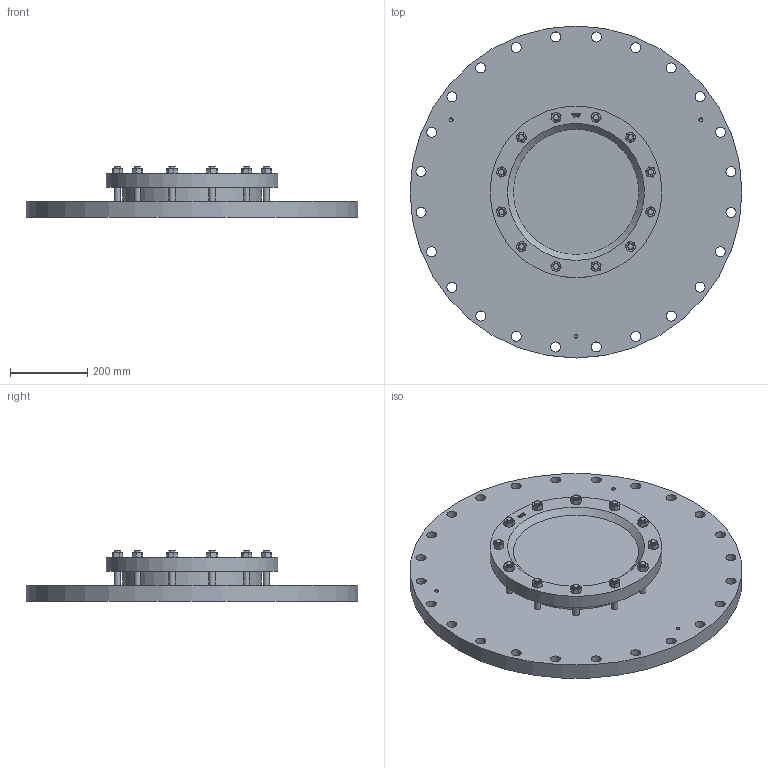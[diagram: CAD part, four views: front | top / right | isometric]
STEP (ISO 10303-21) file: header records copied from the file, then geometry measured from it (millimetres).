
FILE_DESCRIPTION(/* description */ (''),/* implementation_level */ '2;1');
FILE_NAME(/* name */ 'W:\Konstruktion_ACI\325\_STEP\325-700-6.stp',/* time_stamp */ '2022-03-02T17:26:38+01:00',/* author */ ('koslowksi'),/* organization */ (''),/* preprocessor_version */ 'ST-DEVELOPER v16.1',/* originating_system */ 'Autodesk Inventor 2016',/* authorisation */ '');
FILE_SCHEMA (('AUTOMOTIVE_DESIGN { 1 0 10303 214 3 1 1 }'));
Length unit declared in the file: millimetre
Products named in the file (1): 325-700-6
Bounding box: 860 x 860 x 132 mm (x, y, z)
Volume: 31910571.7 mm3; surface area: 1574154.7 mm2
Topology: 1 solids, 1 shells, 553 faces, 1392 edges, 887 vertices
Faces by surface type: plane 231, cone 160, bspline 108, cylinder 54
Full cylindrical faces by diameter (mm): 10.106 x3, 16 x24, 26 x24, 359 x1, 445 x1, 860 x1
Entity records: 16694 total; most frequent: CARTESIAN_POINT 4665, ORIENTED_EDGE 2566, DIRECTION 1937, EDGE_CURVE 1283, VERTEX_POINT 848, EDGE_LOOP 741, AXIS2_PLACEMENT_3D 712, FACE_OUTER_BOUND 553
